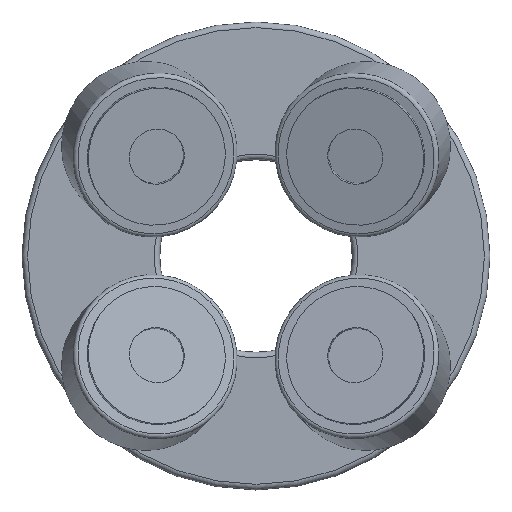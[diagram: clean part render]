
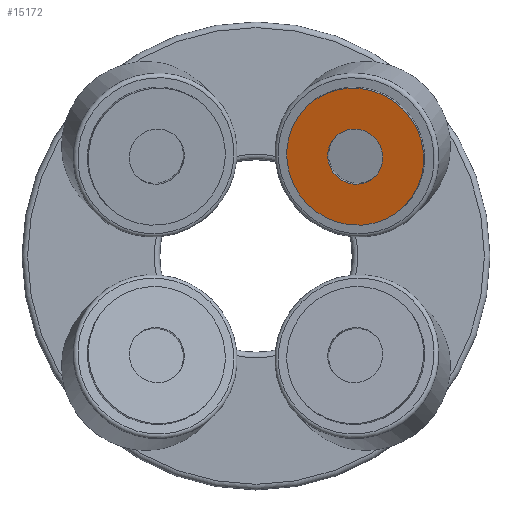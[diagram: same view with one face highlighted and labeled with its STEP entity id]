
A CAD part, top view. The second image highlights one B-rep face of the part: STEP entity #15172.
In plain terms, the highlighted planar face has unit normal (-0.183, -0.183, 0.966).
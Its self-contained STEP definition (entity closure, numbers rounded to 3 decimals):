
#14459 = VERTEX_POINT('',#14460);
#14460 = CARTESIAN_POINT('',(9.161,9.161,
    6.33));
#14467 = CYLINDRICAL_SURFACE('',#14468,4.35);
#14468 = AXIS2_PLACEMENT_3D('',#14469,#14470,#14471);
#14469 = CARTESIAN_POINT('',(6.248,6.248,4.895)
  );
#14470 = DIRECTION('',(0.183,0.183,-0.966));
#14471 = DIRECTION('',(0.683,0.683,0.259));
#14486 = EDGE_CURVE('',#14459,#14459,#14487,.T.);
#14487 = SURFACE_CURVE('',#14488,(#14493,#14500),.PCURVE_S1.);
#14488 = CIRCLE('',#14489,4.35);
#14489 = AXIS2_PLACEMENT_3D('',#14490,#14491,#14492);
#14490 = CARTESIAN_POINT('',(6.189,6.189,
    5.204));
#14491 = DIRECTION('',(-0.183,-0.183,0.966));
#14492 = DIRECTION('',(0.683,0.683,0.259));
#14493 = PCURVE('',#14467,#14494);
#14494 = DEFINITIONAL_REPRESENTATION('',(#14495),#14499);
#14495 = LINE('',#14496,#14497);
#14496 = CARTESIAN_POINT('',(-0.,-0.32));
#14497 = VECTOR('',#14498,1.);
#14498 = DIRECTION('',(-1.,0.));
#14499 = ( GEOMETRIC_REPRESENTATION_CONTEXT(2) 
PARAMETRIC_REPRESENTATION_CONTEXT() REPRESENTATION_CONTEXT('2D SPACE',''
  ) );
#14500 = PCURVE('',#14501,#14506);
#14501 = PLANE('',#14502);
#14502 = AXIS2_PLACEMENT_3D('',#14503,#14504,#14505);
#14503 = CARTESIAN_POINT('',(6.189,6.189,
    5.204));
#14504 = DIRECTION('',(-0.183,-0.183,0.966));
#14505 = DIRECTION('',(0.683,0.683,0.259));
#14506 = DEFINITIONAL_REPRESENTATION('',(#14507),#14511);
#14507 = CIRCLE('',#14508,4.35);
#14508 = AXIS2_PLACEMENT_2D('',#14509,#14510);
#14509 = CARTESIAN_POINT('',(0.,0.));
#14510 = DIRECTION('',(1.,0.));
#14511 = ( GEOMETRIC_REPRESENTATION_CONTEXT(2) 
PARAMETRIC_REPRESENTATION_CONTEXT() REPRESENTATION_CONTEXT('2D SPACE',''
  ) );
#15172 = ADVANCED_FACE('',(#15173,#15176),#14501,.T.);
#15173 = FACE_BOUND('',#15174,.T.);
#15174 = EDGE_LOOP('',(#15175));
#15175 = ORIENTED_EDGE('',*,*,#14486,.T.);
#15176 = FACE_BOUND('',#15177,.T.);
#15177 = EDGE_LOOP('',(#15178));
#15178 = ORIENTED_EDGE('',*,*,#15179,.T.);
#15179 = EDGE_CURVE('',#15180,#15180,#15182,.T.);
#15180 = VERTEX_POINT('',#15181);
#15181 = CARTESIAN_POINT('',(7.385,7.385,
    5.657));
#15182 = SURFACE_CURVE('',#15183,(#15188,#15199),.PCURVE_S1.);
#15183 = CIRCLE('',#15184,1.75);
#15184 = AXIS2_PLACEMENT_3D('',#15185,#15186,#15187);
#15185 = CARTESIAN_POINT('',(6.189,6.189,
    5.204));
#15186 = DIRECTION('',(0.183,0.183,-0.966));
#15187 = DIRECTION('',(0.683,0.683,0.259));
#15188 = PCURVE('',#14501,#15189);
#15189 = DEFINITIONAL_REPRESENTATION('',(#15190),#15198);
#15190 = ( BOUNDED_CURVE() B_SPLINE_CURVE(2,(#15191,#15192,#15193,#15194
    ,#15195,#15196,#15197),.UNSPECIFIED.,.T.,.F.) 
B_SPLINE_CURVE_WITH_KNOTS((1,2,2,2,2,1),(-2.094,0.,
    2.094,4.189,6.283,8.378),
.UNSPECIFIED.) CURVE() GEOMETRIC_REPRESENTATION_ITEM() 
RATIONAL_B_SPLINE_CURVE((1.,0.5,1.,0.5,1.,0.5,1.)) REPRESENTATION_ITEM(
  '') );
#15191 = CARTESIAN_POINT('',(1.75,0.));
#15192 = CARTESIAN_POINT('',(1.75,-3.031));
#15193 = CARTESIAN_POINT('',(-0.875,-1.516));
#15194 = CARTESIAN_POINT('',(-3.5,0.));
#15195 = CARTESIAN_POINT('',(-0.875,1.516));
#15196 = CARTESIAN_POINT('',(1.75,3.031));
#15197 = CARTESIAN_POINT('',(1.75,0.));
#15198 = ( GEOMETRIC_REPRESENTATION_CONTEXT(2) 
PARAMETRIC_REPRESENTATION_CONTEXT() REPRESENTATION_CONTEXT('2D SPACE',''
  ) );
#15199 = PCURVE('',#15200,#15205);
#15200 = CYLINDRICAL_SURFACE('',#15201,1.75);
#15201 = AXIS2_PLACEMENT_3D('',#15202,#15203,#15204);
#15202 = CARTESIAN_POINT('',(6.431,6.431,3.929
    ));
#15203 = DIRECTION('',(0.183,0.183,-0.966));
#15204 = DIRECTION('',(0.683,0.683,0.259));
#15205 = DEFINITIONAL_REPRESENTATION('',(#15206),#15210);
#15206 = LINE('',#15207,#15208);
#15207 = CARTESIAN_POINT('',(-6.283,-1.32));
#15208 = VECTOR('',#15209,1.);
#15209 = DIRECTION('',(1.,-0.));
#15210 = ( GEOMETRIC_REPRESENTATION_CONTEXT(2) 
PARAMETRIC_REPRESENTATION_CONTEXT() REPRESENTATION_CONTEXT('2D SPACE',''
  ) );
